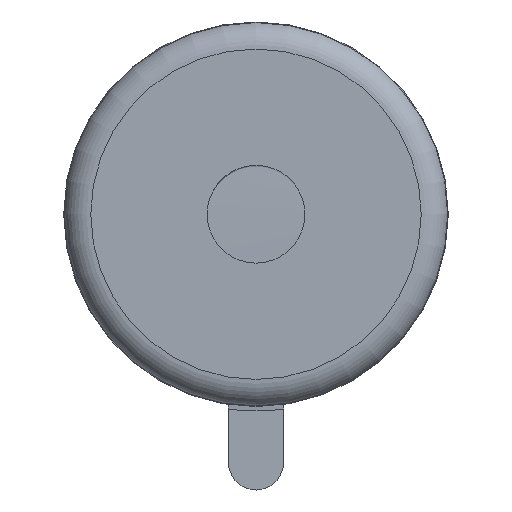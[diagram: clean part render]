
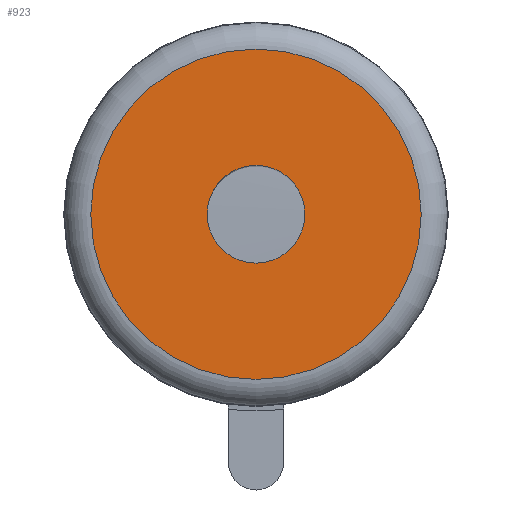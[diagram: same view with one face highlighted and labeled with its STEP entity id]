
A CAD part, top view. The second image highlights one B-rep face of the part: STEP entity #923.
In plain terms, the highlighted planar face has unit normal (0, 0, 1).
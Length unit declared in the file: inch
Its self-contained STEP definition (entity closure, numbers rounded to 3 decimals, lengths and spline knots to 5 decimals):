
#29=PLANE('',#1013);
#35=FACE_BOUND('',#167,.T.);
#56=CIRCLE('',#1004,0.1775);
#61=CIRCLE('',#1011,0.6);
#62=CIRCLE('',#1012,0.6);
#113=FACE_OUTER_BOUND('',#166,.T.);
#166=EDGE_LOOP('',(#818,#819));
#167=EDGE_LOOP('',(#820));
#413=VERTEX_POINT('',#4477);
#416=VERTEX_POINT('',#4487);
#417=VERTEX_POINT('',#4489);
#547=EDGE_CURVE('',#413,#413,#56,.T.);
#553=EDGE_CURVE('',#416,#417,#61,.T.);
#554=EDGE_CURVE('',#417,#416,#62,.T.);
#818=ORIENTED_EDGE('',*,*,#554,.F.);
#819=ORIENTED_EDGE('',*,*,#553,.F.);
#820=ORIENTED_EDGE('',*,*,#547,.T.);
#923=ADVANCED_FACE('',(#113,#35),#29,.T.);
#1004=AXIS2_PLACEMENT_3D('',#4478,#1189,#1190);
#1011=AXIS2_PLACEMENT_3D('',#4490,#1204,#1205);
#1012=AXIS2_PLACEMENT_3D('',#4491,#1206,#1207);
#1013=AXIS2_PLACEMENT_3D('',#4492,#1208,#1209);
#1189=DIRECTION('center_axis',(0.,0.,-1.));
#1190=DIRECTION('ref_axis',(1.,0.,0.));
#1204=DIRECTION('center_axis',(0.,0.,-1.));
#1205=DIRECTION('ref_axis',(-1.,0.,0.));
#1206=DIRECTION('center_axis',(0.,0.,-1.));
#1207=DIRECTION('ref_axis',(-1.,0.,0.));
#1208=DIRECTION('center_axis',(0.,0.,1.));
#1209=DIRECTION('ref_axis',(1.,0.,0.));
#4477=CARTESIAN_POINT('',(-0.1775,0.,2.5));
#4478=CARTESIAN_POINT('Origin',(0.,0.,2.5));
#4487=CARTESIAN_POINT('',(0.6,0.,2.5));
#4489=CARTESIAN_POINT('',(-0.6,0.,2.5));
#4490=CARTESIAN_POINT('Origin',(0.,0.,2.5));
#4491=CARTESIAN_POINT('Origin',(0.,0.,2.5));
#4492=CARTESIAN_POINT('Origin',(0.,0.,2.5));
